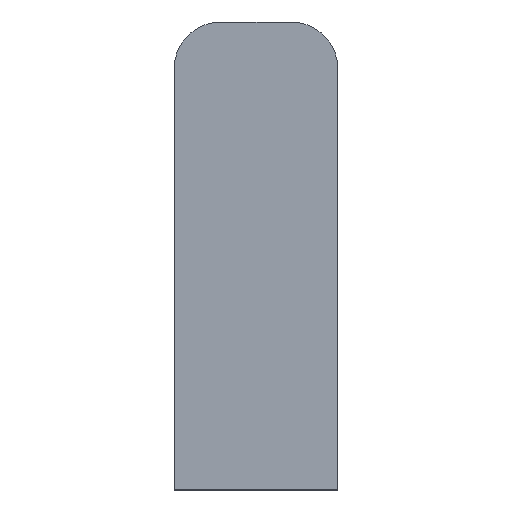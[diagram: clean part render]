
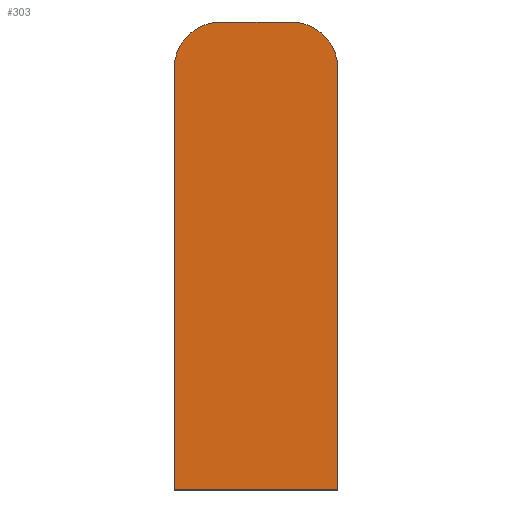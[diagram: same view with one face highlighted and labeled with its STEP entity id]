
A CAD part, front view. The second image highlights one B-rep face of the part: STEP entity #303.
In plain terms, the highlighted planar face has unit normal (0, -1, 0).
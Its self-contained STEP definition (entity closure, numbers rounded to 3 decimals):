
#1 = CARTESIAN_POINT ( 'NONE',  ( 2.25, 0., 10.5 ) ) ;
#3 = LINE ( 'NONE', #256, #109 ) ;
#7 = ORIENTED_EDGE ( 'NONE', *, *, #422, .T. ) ;
#25 = ORIENTED_EDGE ( 'NONE', *, *, #381, .T. ) ;
#34 = ORIENTED_EDGE ( 'NONE', *, *, #398, .T. ) ;
#51 = ORIENTED_EDGE ( 'NONE', *, *, #391, .T. ) ;
#55 = ORIENTED_EDGE ( 'NONE', *, *, #358, .T. ) ;
#56 = ORIENTED_EDGE ( 'NONE', *, *, #412, .T. ) ;
#71 = FACE_OUTER_BOUND ( 'NONE', #99, .T. ) ;
#93 = VECTOR ( 'NONE', #251, 1000. ) ;
#99 = EDGE_LOOP ( 'NONE', ( #51, #56, #55, #7, #25, #34 ) ) ;
#109 = VECTOR ( 'NONE', #279, 1000. ) ;
#124 = LINE ( 'NONE', #288, #127 ) ;
#127 = VECTOR ( 'NONE', #292, 1000. ) ;
#136 = CIRCLE ( 'NONE', #401, 3. ) ;
#143 = LINE ( 'NONE', #235, #144 ) ;
#144 = VECTOR ( 'NONE', #236, 1000. ) ;
#158 = CIRCLE ( 'NONE', #377, 3. ) ;
#165 = LINE ( 'NONE', #273, #93 ) ;
#171 = CARTESIAN_POINT ( 'NONE',  ( 0., 0., -1.5 ) ) ;
#172 = PLANE ( 'NONE',  #404 ) ;
#207 = CARTESIAN_POINT ( 'NONE',  ( 5.25, 0., 10.5 ) ) ;
#218 = CARTESIAN_POINT ( 'NONE',  ( -5.25, 0., 10.5 ) ) ;
#220 = CARTESIAN_POINT ( 'NONE',  ( 2.25, 0., 13.5 ) ) ;
#225 = CARTESIAN_POINT ( 'NONE',  ( -5.25, 0., -16.5 ) ) ;
#230 = CARTESIAN_POINT ( 'NONE',  ( -2.25, 0., 13.5 ) ) ;
#233 = CARTESIAN_POINT ( 'NONE',  ( 5.25, 0., -16.5 ) ) ;
#235 = CARTESIAN_POINT ( 'NONE',  ( 2.25, 0., 13.5 ) ) ;
#236 = DIRECTION ( 'NONE',  ( -1., 0., 0. ) ) ;
#251 = DIRECTION ( 'NONE',  ( 0., 0., -1. ) ) ;
#256 = CARTESIAN_POINT ( 'NONE',  ( 5.25, 0., -16.5 ) ) ;
#259 = DIRECTION ( 'NONE',  ( -1., 0., 0. ) ) ;
#260 = DIRECTION ( 'NONE',  ( 0., 1., 0. ) ) ;
#273 = CARTESIAN_POINT ( 'NONE',  ( -5.25, 0., -16.5 ) ) ;
#279 = DIRECTION ( 'NONE',  ( 0., 0., 1. ) ) ;
#288 = CARTESIAN_POINT ( 'NONE',  ( 5.25, 0., -16.5 ) ) ;
#292 = DIRECTION ( 'NONE',  ( 1., 0., 0. ) ) ;
#303 = ADVANCED_FACE ( 'NONE', ( #71 ), #172, .F. ) ;
#332 = VERTEX_POINT ( 'NONE', #218 ) ;
#333 = VERTEX_POINT ( 'NONE', #220 ) ;
#334 = VERTEX_POINT ( 'NONE', #207 ) ;
#342 = VERTEX_POINT ( 'NONE', #225 ) ;
#347 = VERTEX_POINT ( 'NONE', #230 ) ;
#350 = VERTEX_POINT ( 'NONE', #233 ) ;
#358 = EDGE_CURVE ( 'NONE', #333, #347, #143, .T. ) ;
#377 = AXIS2_PLACEMENT_3D ( 'NONE', #439, #462, #466 ) ;
#381 = EDGE_CURVE ( 'NONE', #332, #342, #165, .T. ) ;
#391 = EDGE_CURVE ( 'NONE', #350, #334, #3, .T. ) ;
#398 = EDGE_CURVE ( 'NONE', #342, #350, #124, .T. ) ;
#401 = AXIS2_PLACEMENT_3D ( 'NONE', #1, #437, #438 ) ;
#404 = AXIS2_PLACEMENT_3D ( 'NONE', #171, #260, #259 ) ;
#412 = EDGE_CURVE ( 'NONE', #334, #333, #136, .T. ) ;
#422 = EDGE_CURVE ( 'NONE', #347, #332, #158, .T. ) ;
#437 = DIRECTION ( 'NONE',  ( 0., -1., 0. ) ) ;
#438 = DIRECTION ( 'NONE',  ( -1., 0., 0. ) ) ;
#439 = CARTESIAN_POINT ( 'NONE',  ( -2.25, 0., 10.5 ) ) ;
#462 = DIRECTION ( 'NONE',  ( 0., -1., 0. ) ) ;
#466 = DIRECTION ( 'NONE',  ( -1., 0., 0. ) ) ;
